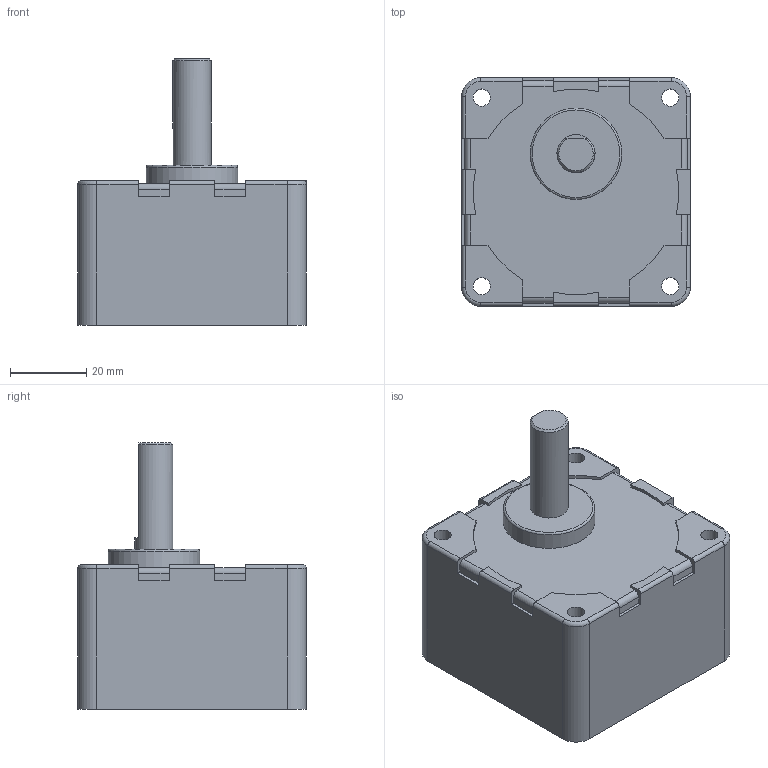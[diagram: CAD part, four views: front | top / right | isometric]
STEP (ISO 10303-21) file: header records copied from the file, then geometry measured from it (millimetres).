
FILE_DESCRIPTION(/* description */ (''),/* implementation_level */ '2;1');
FILE_NAME(/* name */ 'E:\도면작업\2016\0704) 미주향 SG 도면\3D GEAR HEAD\SG6DA30~120.stp',/* time_stamp */ '2016-07-22T14:00:09+09:00',/* author */ ('jy-jung'),/* organization */ (''),/* preprocessor_version */ 'ST-DEVELOPER v15.6',/* originating_system */ 'Autodesk Inventor 2015',/* authorisation */ '');
FILE_SCHEMA (('AUTOMOTIVE_DESIGN { 1 0 10303 214 3 1 1 }'));
Length unit declared in the file: millimetre
Products named in the file (1): SG6DA30~120
Bounding box: 60 x 60 x 70 mm (x, y, z)
Volume: 129779 mm3; surface area: 19810.6 mm2
Topology: 1 solids, 1 shells, 99 faces, 268 edges, 175 vertices
Faces by surface type: plane 52, cylinder 39, torus 5, cone 3
Full cylindrical faces by diameter (mm): 4.5 x4, 5.7 x1, 10 x1, 24 x1, 54 x1
Entity records: 3095 total; most frequent: DIRECTION 541, CARTESIAN_POINT 534, ORIENTED_EDGE 512, EDGE_CURVE 256, AXIS2_PLACEMENT_3D 187, VERTEX_POINT 174, LINE 167, VECTOR 167
